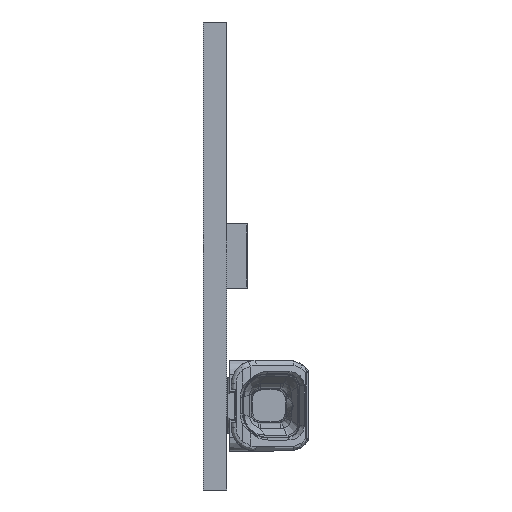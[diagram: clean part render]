
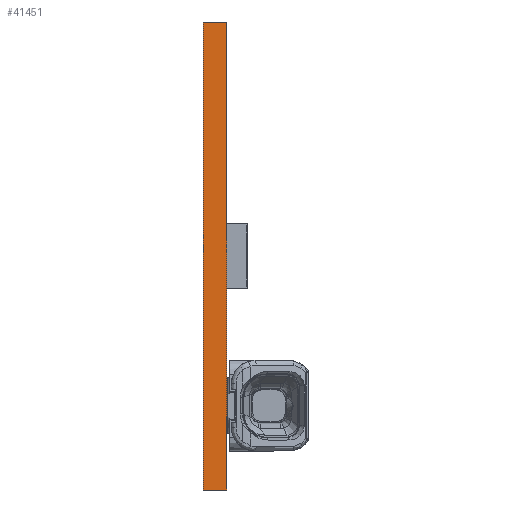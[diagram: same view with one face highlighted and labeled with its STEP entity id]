
A CAD part, left-side view. The second image highlights one B-rep face of the part: STEP entity #41451.
In plain terms, the highlighted planar face has unit normal (-1, 0, 0).
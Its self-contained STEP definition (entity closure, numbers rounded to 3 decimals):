
#1121=LINE('',#54618,#5145);
#1247=LINE('',#54951,#5271);
#1330=LINE('',#55116,#5354);
#1331=LINE('',#55118,#5355);
#5145=VECTOR('',#45734,1000.);
#5271=VECTOR('',#45942,1000.);
#5354=VECTOR('',#46189,1000.);
#5355=VECTOR('',#46192,1000.);
#9966=ORIENTED_EDGE('',*,*,#18651,.F.);
#9967=ORIENTED_EDGE('',*,*,#18901,.F.);
#9968=ORIENTED_EDGE('',*,*,#18817,.T.);
#9969=ORIENTED_EDGE('',*,*,#18900,.T.);
#18651=EDGE_CURVE('',#23281,#23282,#1121,.T.);
#18817=EDGE_CURVE('',#23365,#23447,#1247,.T.);
#18900=EDGE_CURVE('',#23447,#23282,#1330,.T.);
#18901=EDGE_CURVE('',#23365,#23281,#1331,.T.);
#23281=VERTEX_POINT('',#54617);
#23282=VERTEX_POINT('',#54619);
#23365=VERTEX_POINT('',#54786);
#23447=VERTEX_POINT('',#54950);
#26612=EDGE_LOOP('',(#9966,#9967,#9968,#9969));
#28614=FACE_BOUND('',#26612,.T.);
#30482=PLANE('',#43301);
#41451=ADVANCED_FACE('',(#28614),#30482,.T.);
#43301=AXIS2_PLACEMENT_3D('',#55117,#46190,#46191);
#45734=DIRECTION('',(0.,0.,-1.));
#45942=DIRECTION('',(0.,0.,-1.));
#46189=DIRECTION('',(0.,-1.,0.));
#46190=DIRECTION('',(-1.,0.,0.));
#46191=DIRECTION('',(0.,0.,1.));
#46192=DIRECTION('',(0.,-1.,0.));
#54617=CARTESIAN_POINT('',(-280.,0.,10.));
#54618=CARTESIAN_POINT('',(-280.,0.,10.));
#54619=CARTESIAN_POINT('',(-280.,0.,-10.));
#54786=CARTESIAN_POINT('',(-280.,1.,10.));
#54950=CARTESIAN_POINT('',(-280.,1.,-10.));
#54951=CARTESIAN_POINT('',(-280.,1.,10.));
#55116=CARTESIAN_POINT('',(-280.,1.,-10.));
#55117=CARTESIAN_POINT('',(-280.,1.,10.));
#55118=CARTESIAN_POINT('',(-280.,1.,10.));
